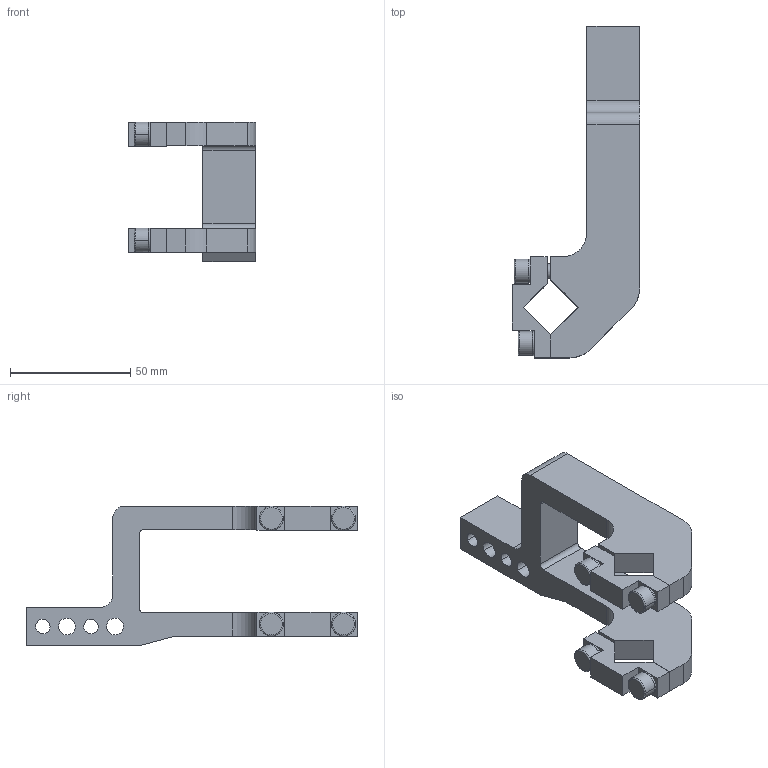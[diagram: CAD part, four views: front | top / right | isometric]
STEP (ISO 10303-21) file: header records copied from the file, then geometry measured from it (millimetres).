
FILE_DESCRIPTION(('CATIA V5 STEP Exchange'),'2;1');
FILE_NAME('E:\clampact\CLAMPACT\clampact\catalog\Clampact Arm\Arm 3D\Clampact Arm\arm_K40_15_A11_Clampact.stp','2022-12-06T07:37:48+00:00',('none'),('none'),'CATIA Version 5 Release 19 SP 6 (IN-10)','CATIA V5 STEP AP203','none');
FILE_SCHEMA(('CONFIG_CONTROL_DESIGN'));
Length unit declared in the file: millimetre
Products named in the file (1): K40_15_A11_Clampact_柯莱普
Bounding box: 53 x 138 x 58 mm (x, y, z)
Volume: 76560.1 mm3; surface area: 26151.7 mm2
Topology: 1 solids, 5 shells, 159 faces, 399 edges, 250 vertices
Faces by surface type: plane 76, cylinder 51, cone 20, torus 12
Entity records: 4570 total; most frequent: CARTESIAN_POINT 974, ORIENTED_EDGE 782, DIRECTION 604, EDGE_CURVE 391, AXIS2_PLACEMENT_3D 252, VERTEX_POINT 250, VECTOR 234, LINE 234
